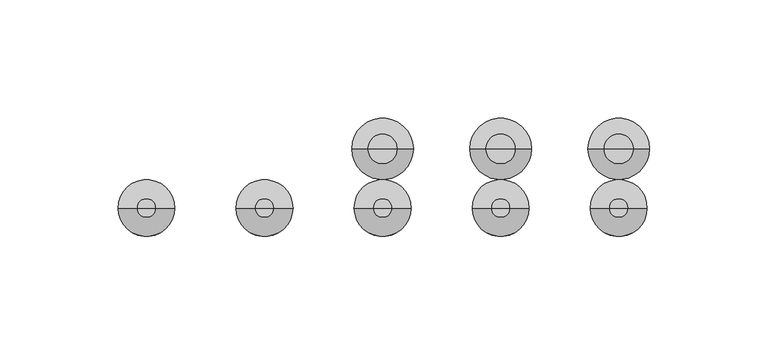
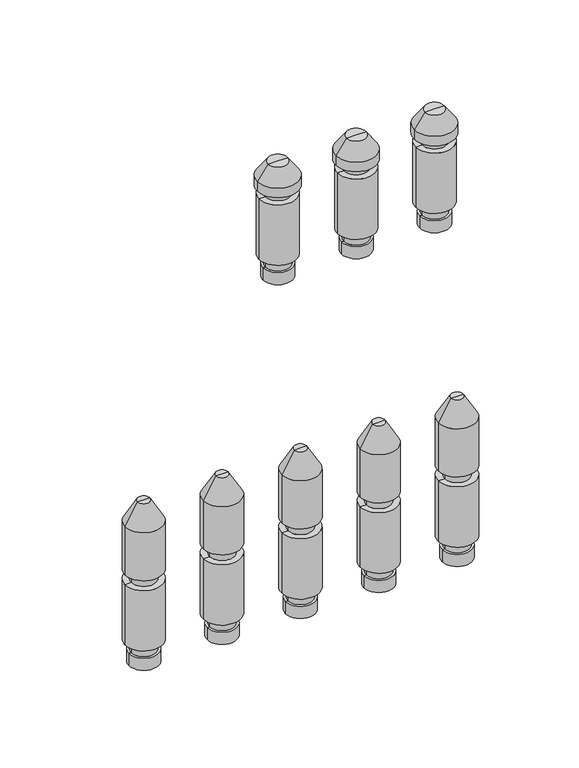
"""IFC4 building model written with IfcOpenShell, lengths in millimetres: valve geometry, PL CZ_Manifold_FT-VA : 15 circuits."""

from ifc_helpers import new_model, si_unit, frame, origin, place, context, project, spatial, polyline, circle_curve, source, transform, mapped, element, save
from ifc_brep_helpers import plane_surface, cylinder_surface, revolved_surface, advanced_brep


def valve_b42ebe50(model_context):
    return source(origin(), model_context, "Body", "AdvancedBrep", [
        advanced_brep(
        [(678.5, 0.0, -35.11267), (697.5, 0.0, -35.11267), (688.0, 0.0, -35.11267), (678.5, 0.0, -27.0369646), (697.5, 0.0, -27.0369646), (680.0, 0.0, -27.0369646), (696.0, 0.0, -27.0369646), (680.0, 0.0, -20.330253), (696.0, 0.0, -20.330253), (676.0, 0.0, -20.330253), (700.0, 0.0, -20.330253), (676.0, 0.0, 20.330253), (700.0, 0.0, 20.330253), (680.0, 0.0, 20.330253), (696.0, 0.0, 20.330253), (680.0, 0.0, 27.0474786), (696.0, 0.0, 27.0474786), (676.0, 0.0, 27.0474786), (700.0, 0.0, 27.0474786), (676.0, 0.0, 59.4084325), (700.0, 0.0, 59.4084325), (684.0, 0.0, 73.264839), (692.0, 0.0, 73.264839), (688.0, 0.0, 73.264839)],
        [
            (0, 1, circle_curve(frame((688.0, 0.0, -35.11267), z_axis=(0.0, 0.0, -1.0), x_axis=(1.0, 0.0, 0.0)), 9.5)),
            (1, 2),
            (2, 0),
            (1, 0, circle_curve(frame((688.0, 0.0, -35.11267), z_axis=(0.0, 0.0, -1.0), x_axis=(1.0, 0.0, 0.0)), 9.5)),
            (3, 4, circle_curve(frame((688.0, 0.0, -27.0369646), z_axis=(0.0, 0.0, -1.0), x_axis=(1.0, 0.0, 0.0)), 9.5)),
            (4, 1),
            (0, 3),
            (4, 3, circle_curve(frame((688.0, 0.0, -27.0369646), z_axis=(0.0, 0.0, -1.0), x_axis=(1.0, 0.0, 0.0)), 9.5)),
            (5, 6, circle_curve(frame((688.0, 0.0, -27.0369646), z_axis=(0.0, 0.0, -1.0), x_axis=(1.0, 0.0, 0.0)), 8.0)),
            (6, 4),
            (3, 5),
            (6, 5, circle_curve(frame((688.0, 0.0, -27.0369646), z_axis=(0.0, 0.0, -1.0), x_axis=(1.0, 0.0, 0.0)), 8.0)),
            (7, 8, circle_curve(frame((688.0, 0.0, -20.330253), z_axis=(0.0, 0.0, -1.0), x_axis=(1.0, 0.0, 0.0)), 8.0)),
            (8, 6),
            (5, 7),
            (8, 7, circle_curve(frame((688.0, 0.0, -20.330253), z_axis=(0.0, 0.0, -1.0), x_axis=(1.0, 0.0, 0.0)), 8.0)),
            (9, 10, circle_curve(frame((688.0, 0.0, -20.330253), z_axis=(0.0, 0.0, -1.0), x_axis=(1.0, 0.0, 0.0)), 12.0)),
            (10, 8),
            (7, 9),
            (10, 9, circle_curve(frame((688.0, 0.0, -20.330253), z_axis=(0.0, 0.0, -1.0), x_axis=(1.0, 0.0, 0.0)), 12.0)),
            (11, 12, circle_curve(frame((688.0, 0.0, 20.330253), z_axis=(0.0, 0.0, -1.0), x_axis=(1.0, 0.0, 0.0)), 12.0)),
            (12, 10),
            (9, 11),
            (12, 11, circle_curve(frame((688.0, 0.0, 20.330253), z_axis=(0.0, 0.0, -1.0), x_axis=(1.0, 0.0, 0.0)), 12.0)),
            (13, 14, circle_curve(frame((688.0, 0.0, 20.330253), z_axis=(0.0, 0.0, -1.0), x_axis=(1.0, 0.0, 0.0)), 8.0)),
            (14, 12),
            (11, 13),
            (14, 13, circle_curve(frame((688.0, 0.0, 20.330253), z_axis=(0.0, 0.0, -1.0), x_axis=(1.0, 0.0, 0.0)), 8.0)),
            (15, 16, circle_curve(frame((688.0, 0.0, 27.0474786), z_axis=(0.0, 0.0, -1.0), x_axis=(1.0, 0.0, 0.0)), 8.0)),
            (16, 14),
            (13, 15),
            (16, 15, circle_curve(frame((688.0, 0.0, 27.0474786), z_axis=(0.0, 0.0, -1.0), x_axis=(1.0, 0.0, 0.0)), 8.0)),
            (17, 18, circle_curve(frame((688.0, 0.0, 27.0474786), z_axis=(0.0, 0.0, -1.0), x_axis=(1.0, 0.0, 0.0)), 12.0)),
            (18, 16),
            (15, 17),
            (18, 17, circle_curve(frame((688.0, 0.0, 27.0474786), z_axis=(0.0, 0.0, -1.0), x_axis=(1.0, 0.0, 0.0)), 12.0)),
            (19, 20, circle_curve(frame((688.0, 0.0, 59.4084325), z_axis=(0.0, 0.0, -1.0), x_axis=(1.0, 0.0, 0.0)), 12.0)),
            (20, 18),
            (17, 19),
            (20, 19, circle_curve(frame((688.0, 0.0, 59.4084325), z_axis=(0.0, 0.0, -1.0), x_axis=(1.0, 0.0, 0.0)), 12.0)),
            (21, 22, circle_curve(frame((688.0, 0.0, 73.264839), z_axis=(0.0, 0.0, -1.0), x_axis=(1.0, 0.0, 0.0)), 4.0)),
            (22, 20),
            (19, 21),
            (22, 21, circle_curve(frame((688.0, 0.0, 73.264839), z_axis=(0.0, 0.0, -1.0), x_axis=(1.0, 0.0, 0.0)), 4.0)),
            (23, 22),
            (21, 23),
        ],
        [
            plane_surface(frame((688.0, 0.0, -35.11267), z_axis=(0.0, 0.0, -1.0), x_axis=(1.0, 0.0, 0.0))),
            cylinder_surface(frame((688.0, 0.0, 58.264839), z_axis=(0.0, 0.0, 1.0), x_axis=(1.0, 0.0, 0.0)), 9.5),
            plane_surface(frame((688.0, 0.0, -27.0369646), z_axis=(0.0, 0.0, 1.0), x_axis=(1.0, 0.0, 0.0))),
            cylinder_surface(frame((688.0, 0.0, 58.264839), z_axis=(0.0, 0.0, 1.0), x_axis=(1.0, 0.0, 0.0)), 8.0),
            plane_surface(frame((688.0, 0.0, -20.330253), z_axis=(0.0, 0.0, -1.0), x_axis=(1.0, 0.0, 0.0))),
            cylinder_surface(frame((688.0, 0.0, 58.264839), z_axis=(0.0, 0.0, 1.0), x_axis=(1.0, 0.0, 0.0)), 12.0),
            plane_surface(frame((688.0, 0.0, 20.330253), z_axis=(0.0, 0.0, 1.0), x_axis=(1.0, 0.0, 0.0))),
            plane_surface(frame((688.0, 0.0, 27.0474786), z_axis=(0.0, 0.0, -1.0), x_axis=(1.0, 0.0, 0.0))),
            revolved_surface(polyline([(700.0, 0.0, 59.4084325), (692.0, 0.0, 73.264839)]), (688.0, 0.0, 58.264839), (0.0, 0.0, 1.0)),
            plane_surface(frame((688.0, 0.0, 73.264839), z_axis=(0.0, 0.0, 1.0), x_axis=(1.0, 0.0, 0.0))),
        ],
        [
            (0, [[1, 2, 3]]),
            (0, [[4, -3, -2]]),
            (1, [[5, 6, -1, 7]]),
            (1, [[8, -7, -4, -6]]),
            (2, [[9, 10, -5, 11]]),
            (2, [[12, -11, -8, -10]]),
            (3, [[13, 14, -9, 15]]),
            (3, [[16, -15, -12, -14]]),
            (4, [[17, 18, -13, 19]]),
            (4, [[20, -19, -16, -18]]),
            (5, [[21, 22, -17, 23]]),
            (5, [[24, -23, -20, -22]]),
            (6, [[25, 26, -21, 27]]),
            (6, [[28, -27, -24, -26]]),
            (3, [[29, 30, -25, 31]]),
            (3, [[32, -31, -28, -30]]),
            (7, [[33, 34, -29, 35]]),
            (7, [[36, -35, -32, -34]]),
            (5, [[37, 38, -33, 39]]),
            (5, [[40, -39, -36, -38]]),
            (8, [[41, 42, -37, 43]]),
            (8, [[44, -43, -40, -42]]),
            (9, [[45, -41, 46]]),
            (9, [[-46, -44, -45]]),
        ],
    ),
        advanced_brep(
        [(628.5, 0.0, -35.11267), (647.5, 0.0, -35.11267), (638.0, 0.0, -35.11267), (628.5, 0.0, -27.0369646), (647.5, 0.0, -27.0369646), (630.0, 0.0, -27.0369646), (646.0, 0.0, -27.0369646), (630.0, 0.0, -20.330253), (646.0, 0.0, -20.330253), (626.0, 0.0, -20.330253), (650.0, 0.0, -20.330253), (626.0, 0.0, 20.330253), (650.0, 0.0, 20.330253), (630.0, 0.0, 20.330253), (646.0, 0.0, 20.330253), (630.0, 0.0, 27.0474786), (646.0, 0.0, 27.0474786), (626.0, 0.0, 27.0474786), (650.0, 0.0, 27.0474786), (626.0, 0.0, 59.4084325), (650.0, 0.0, 59.4084325), (634.0, 0.0, 73.264839), (642.0, 0.0, 73.264839), (638.0, 0.0, 73.264839)],
        [
            (0, 1, circle_curve(frame((638.0, 0.0, -35.11267), z_axis=(0.0, 0.0, -1.0), x_axis=(1.0, 0.0, 0.0)), 9.5)),
            (1, 2),
            (2, 0),
            (1, 0, circle_curve(frame((638.0, 0.0, -35.11267), z_axis=(0.0, 0.0, -1.0), x_axis=(1.0, 0.0, 0.0)), 9.5)),
            (3, 4, circle_curve(frame((638.0, 0.0, -27.0369646), z_axis=(0.0, 0.0, -1.0), x_axis=(1.0, 0.0, 0.0)), 9.5)),
            (4, 1),
            (0, 3),
            (4, 3, circle_curve(frame((638.0, 0.0, -27.0369646), z_axis=(0.0, 0.0, -1.0), x_axis=(1.0, 0.0, 0.0)), 9.5)),
            (5, 6, circle_curve(frame((638.0, 0.0, -27.0369646), z_axis=(0.0, 0.0, -1.0), x_axis=(1.0, 0.0, 0.0)), 8.0)),
            (6, 4),
            (3, 5),
            (6, 5, circle_curve(frame((638.0, 0.0, -27.0369646), z_axis=(0.0, 0.0, -1.0), x_axis=(1.0, 0.0, 0.0)), 8.0)),
            (7, 8, circle_curve(frame((638.0, 0.0, -20.330253), z_axis=(0.0, 0.0, -1.0), x_axis=(1.0, 0.0, 0.0)), 8.0)),
            (8, 6),
            (5, 7),
            (8, 7, circle_curve(frame((638.0, 0.0, -20.330253), z_axis=(0.0, 0.0, -1.0), x_axis=(1.0, 0.0, 0.0)), 8.0)),
            (9, 10, circle_curve(frame((638.0, 0.0, -20.330253), z_axis=(0.0, 0.0, -1.0), x_axis=(1.0, 0.0, 0.0)), 12.0)),
            (10, 8),
            (7, 9),
            (10, 9, circle_curve(frame((638.0, 0.0, -20.330253), z_axis=(0.0, 0.0, -1.0), x_axis=(1.0, 0.0, 0.0)), 12.0)),
            (11, 12, circle_curve(frame((638.0, 0.0, 20.330253), z_axis=(0.0, 0.0, -1.0), x_axis=(1.0, 0.0, 0.0)), 12.0)),
            (12, 10),
            (9, 11),
            (12, 11, circle_curve(frame((638.0, 0.0, 20.330253), z_axis=(0.0, 0.0, -1.0), x_axis=(1.0, 0.0, 0.0)), 12.0)),
            (13, 14, circle_curve(frame((638.0, 0.0, 20.330253), z_axis=(0.0, 0.0, -1.0), x_axis=(1.0, 0.0, 0.0)), 8.0)),
            (14, 12),
            (11, 13),
            (14, 13, circle_curve(frame((638.0, 0.0, 20.330253), z_axis=(0.0, 0.0, -1.0), x_axis=(1.0, 0.0, 0.0)), 8.0)),
            (15, 16, circle_curve(frame((638.0, 0.0, 27.0474786), z_axis=(0.0, 0.0, -1.0), x_axis=(1.0, 0.0, 0.0)), 8.0)),
            (16, 14),
            (13, 15),
            (16, 15, circle_curve(frame((638.0, 0.0, 27.0474786), z_axis=(0.0, 0.0, -1.0), x_axis=(1.0, 0.0, 0.0)), 8.0)),
            (17, 18, circle_curve(frame((638.0, 0.0, 27.0474786), z_axis=(0.0, 0.0, -1.0), x_axis=(1.0, 0.0, 0.0)), 12.0)),
            (18, 16),
            (15, 17),
            (18, 17, circle_curve(frame((638.0, 0.0, 27.0474786), z_axis=(0.0, 0.0, -1.0), x_axis=(1.0, 0.0, 0.0)), 12.0)),
            (19, 20, circle_curve(frame((638.0, 0.0, 59.4084325), z_axis=(0.0, 0.0, -1.0), x_axis=(1.0, 0.0, 0.0)), 12.0)),
            (20, 18),
            (17, 19),
            (20, 19, circle_curve(frame((638.0, 0.0, 59.4084325), z_axis=(0.0, 0.0, -1.0), x_axis=(1.0, 0.0, 0.0)), 12.0)),
            (21, 22, circle_curve(frame((638.0, 0.0, 73.264839), z_axis=(0.0, 0.0, -1.0), x_axis=(1.0, 0.0, 0.0)), 4.0)),
            (22, 20),
            (19, 21),
            (22, 21, circle_curve(frame((638.0, 0.0, 73.264839), z_axis=(0.0, 0.0, -1.0), x_axis=(1.0, 0.0, 0.0)), 4.0)),
            (23, 22),
            (21, 23),
        ],
        [
            plane_surface(frame((638.0, 0.0, -35.11267), z_axis=(0.0, 0.0, -1.0), x_axis=(1.0, 0.0, 0.0))),
            cylinder_surface(frame((638.0, 0.0, 58.264839), z_axis=(0.0, 0.0, 1.0), x_axis=(1.0, 0.0, 0.0)), 9.5),
            plane_surface(frame((638.0, 0.0, -27.0369646), z_axis=(0.0, 0.0, 1.0), x_axis=(1.0, 0.0, 0.0))),
            cylinder_surface(frame((638.0, 0.0, 58.264839), z_axis=(0.0, 0.0, 1.0), x_axis=(1.0, 0.0, 0.0)), 8.0),
            plane_surface(frame((638.0, 0.0, -20.330253), z_axis=(0.0, 0.0, -1.0), x_axis=(1.0, 0.0, 0.0))),
            cylinder_surface(frame((638.0, 0.0, 58.264839), z_axis=(0.0, 0.0, 1.0), x_axis=(1.0, 0.0, 0.0)), 12.0),
            plane_surface(frame((638.0, 0.0, 20.330253), z_axis=(0.0, 0.0, 1.0), x_axis=(1.0, 0.0, 0.0))),
            plane_surface(frame((638.0, 0.0, 27.0474786), z_axis=(0.0, 0.0, -1.0), x_axis=(1.0, 0.0, 0.0))),
            revolved_surface(polyline([(650.0, 0.0, 59.4084325), (642.0, 0.0, 73.264839)]), (638.0, 0.0, 58.264839), (0.0, 0.0, 1.0)),
            plane_surface(frame((638.0, 0.0, 73.264839), z_axis=(0.0, 0.0, 1.0), x_axis=(1.0, 0.0, 0.0))),
        ],
        [
            (0, [[1, 2, 3]]),
            (0, [[4, -3, -2]]),
            (1, [[5, 6, -1, 7]]),
            (1, [[8, -7, -4, -6]]),
            (2, [[9, 10, -5, 11]]),
            (2, [[12, -11, -8, -10]]),
            (3, [[13, 14, -9, 15]]),
            (3, [[16, -15, -12, -14]]),
            (4, [[17, 18, -13, 19]]),
            (4, [[20, -19, -16, -18]]),
            (5, [[21, 22, -17, 23]]),
            (5, [[24, -23, -20, -22]]),
            (6, [[25, 26, -21, 27]]),
            (6, [[28, -27, -24, -26]]),
            (3, [[29, 30, -25, 31]]),
            (3, [[32, -31, -28, -30]]),
            (7, [[33, 34, -29, 35]]),
            (7, [[36, -35, -32, -34]]),
            (5, [[37, 38, -33, 39]]),
            (5, [[40, -39, -36, -38]]),
            (8, [[41, 42, -37, 43]]),
            (8, [[44, -43, -40, -42]]),
            (9, [[45, -41, 46]]),
            (9, [[-46, -44, -45]]),
        ],
    ),
        advanced_brep(
        [(578.5, 0.0, -35.11267), (597.5, 0.0, -35.11267), (588.0, 0.0, -35.11267), (578.5, 0.0, -27.0369646), (597.5, 0.0, -27.0369646), (580.0, 0.0, -27.0369646), (596.0, 0.0, -27.0369646), (580.0, 0.0, -20.330253), (596.0, 0.0, -20.330253), (576.0, 0.0, -20.330253), (600.0, 0.0, -20.330253), (576.0, 0.0, 20.330253), (600.0, 0.0, 20.330253), (580.0, 0.0, 20.330253), (596.0, 0.0, 20.330253), (580.0, 0.0, 27.0474786), (596.0, 0.0, 27.0474786), (576.0, 0.0, 27.0474786), (600.0, 0.0, 27.0474786), (576.0, 0.0, 59.4084325), (600.0, 0.0, 59.4084325), (584.0, 0.0, 73.264839), (592.0, 0.0, 73.264839), (588.0, 0.0, 73.264839)],
        [
            (0, 1, circle_curve(frame((588.0, 0.0, -35.11267), z_axis=(0.0, 0.0, -1.0), x_axis=(1.0, 0.0, 0.0)), 9.5)),
            (1, 2),
            (2, 0),
            (1, 0, circle_curve(frame((588.0, 0.0, -35.11267), z_axis=(0.0, 0.0, -1.0), x_axis=(1.0, 0.0, 0.0)), 9.5)),
            (3, 4, circle_curve(frame((588.0, 0.0, -27.0369646), z_axis=(0.0, 0.0, -1.0), x_axis=(1.0, 0.0, 0.0)), 9.5)),
            (4, 1),
            (0, 3),
            (4, 3, circle_curve(frame((588.0, 0.0, -27.0369646), z_axis=(0.0, 0.0, -1.0), x_axis=(1.0, 0.0, 0.0)), 9.5)),
            (5, 6, circle_curve(frame((588.0, 0.0, -27.0369646), z_axis=(0.0, 0.0, -1.0), x_axis=(1.0, 0.0, 0.0)), 8.0)),
            (6, 4),
            (3, 5),
            (6, 5, circle_curve(frame((588.0, 0.0, -27.0369646), z_axis=(0.0, 0.0, -1.0), x_axis=(1.0, 0.0, 0.0)), 8.0)),
            (7, 8, circle_curve(frame((588.0, 0.0, -20.330253), z_axis=(0.0, 0.0, -1.0), x_axis=(1.0, 0.0, 0.0)), 8.0)),
            (8, 6),
            (5, 7),
            (8, 7, circle_curve(frame((588.0, 0.0, -20.330253), z_axis=(0.0, 0.0, -1.0), x_axis=(1.0, 0.0, 0.0)), 8.0)),
            (9, 10, circle_curve(frame((588.0, 0.0, -20.330253), z_axis=(0.0, 0.0, -1.0), x_axis=(1.0, 0.0, 0.0)), 12.0)),
            (10, 8),
            (7, 9),
            (10, 9, circle_curve(frame((588.0, 0.0, -20.330253), z_axis=(0.0, 0.0, -1.0), x_axis=(1.0, 0.0, 0.0)), 12.0)),
            (11, 12, circle_curve(frame((588.0, 0.0, 20.330253), z_axis=(0.0, 0.0, -1.0), x_axis=(1.0, 0.0, 0.0)), 12.0)),
            (12, 10),
            (9, 11),
            (12, 11, circle_curve(frame((588.0, 0.0, 20.330253), z_axis=(0.0, 0.0, -1.0), x_axis=(1.0, 0.0, 0.0)), 12.0)),
            (13, 14, circle_curve(frame((588.0, 0.0, 20.330253), z_axis=(0.0, 0.0, -1.0), x_axis=(1.0, 0.0, 0.0)), 8.0)),
            (14, 12),
            (11, 13),
            (14, 13, circle_curve(frame((588.0, 0.0, 20.330253), z_axis=(0.0, 0.0, -1.0), x_axis=(1.0, 0.0, 0.0)), 8.0)),
            (15, 16, circle_curve(frame((588.0, 0.0, 27.0474786), z_axis=(0.0, 0.0, -1.0), x_axis=(1.0, 0.0, 0.0)), 8.0)),
            (16, 14),
            (13, 15),
            (16, 15, circle_curve(frame((588.0, 0.0, 27.0474786), z_axis=(0.0, 0.0, -1.0), x_axis=(1.0, 0.0, 0.0)), 8.0)),
            (17, 18, circle_curve(frame((588.0, 0.0, 27.0474786), z_axis=(0.0, 0.0, -1.0), x_axis=(1.0, 0.0, 0.0)), 12.0)),
            (18, 16),
            (15, 17),
            (18, 17, circle_curve(frame((588.0, 0.0, 27.0474786), z_axis=(0.0, 0.0, -1.0), x_axis=(1.0, 0.0, 0.0)), 12.0)),
            (19, 20, circle_curve(frame((588.0, 0.0, 59.4084325), z_axis=(0.0, 0.0, -1.0), x_axis=(1.0, 0.0, 0.0)), 12.0)),
            (20, 18),
            (17, 19),
            (20, 19, circle_curve(frame((588.0, 0.0, 59.4084325), z_axis=(0.0, 0.0, -1.0), x_axis=(1.0, 0.0, 0.0)), 12.0)),
            (21, 22, circle_curve(frame((588.0, 0.0, 73.264839), z_axis=(0.0, 0.0, -1.0), x_axis=(1.0, 0.0, 0.0)), 4.0)),
            (22, 20),
            (19, 21),
            (22, 21, circle_curve(frame((588.0, 0.0, 73.264839), z_axis=(0.0, 0.0, -1.0), x_axis=(1.0, 0.0, 0.0)), 4.0)),
            (23, 22),
            (21, 23),
        ],
        [
            plane_surface(frame((588.0, 0.0, -35.11267), z_axis=(0.0, 0.0, -1.0), x_axis=(1.0, 0.0, 0.0))),
            cylinder_surface(frame((588.0, 0.0, 58.264839), z_axis=(0.0, 0.0, 1.0), x_axis=(1.0, 0.0, 0.0)), 9.5),
            plane_surface(frame((588.0, 0.0, -27.0369646), z_axis=(0.0, 0.0, 1.0), x_axis=(1.0, 0.0, 0.0))),
            cylinder_surface(frame((588.0, 0.0, 58.264839), z_axis=(0.0, 0.0, 1.0), x_axis=(1.0, 0.0, 0.0)), 8.0),
            plane_surface(frame((588.0, 0.0, -20.330253), z_axis=(0.0, 0.0, -1.0), x_axis=(1.0, 0.0, 0.0))),
            cylinder_surface(frame((588.0, 0.0, 58.264839), z_axis=(0.0, 0.0, 1.0), x_axis=(1.0, 0.0, 0.0)), 12.0),
            plane_surface(frame((588.0, 0.0, 20.330253), z_axis=(0.0, 0.0, 1.0), x_axis=(1.0, 0.0, 0.0))),
            plane_surface(frame((588.0, 0.0, 27.0474786), z_axis=(0.0, 0.0, -1.0), x_axis=(1.0, 0.0, 0.0))),
            revolved_surface(polyline([(600.0, 0.0, 59.4084325), (592.0, 0.0, 73.264839)]), (588.0, 0.0, 58.264839), (0.0, 0.0, 1.0)),
            plane_surface(frame((588.0, 0.0, 73.264839), z_axis=(0.0, 0.0, 1.0), x_axis=(1.0, 0.0, 0.0))),
        ],
        [
            (0, [[1, 2, 3]]),
            (0, [[4, -3, -2]]),
            (1, [[5, 6, -1, 7]]),
            (1, [[8, -7, -4, -6]]),
            (2, [[9, 10, -5, 11]]),
            (2, [[12, -11, -8, -10]]),
            (3, [[13, 14, -9, 15]]),
            (3, [[16, -15, -12, -14]]),
            (4, [[17, 18, -13, 19]]),
            (4, [[20, -19, -16, -18]]),
            (5, [[21, 22, -17, 23]]),
            (5, [[24, -23, -20, -22]]),
            (6, [[25, 26, -21, 27]]),
            (6, [[28, -27, -24, -26]]),
            (3, [[29, 30, -25, 31]]),
            (3, [[32, -31, -28, -30]]),
            (7, [[33, 34, -29, 35]]),
            (7, [[36, -35, -32, -34]]),
            (5, [[37, 38, -33, 39]]),
            (5, [[40, -39, -36, -38]]),
            (8, [[41, 42, -37, 43]]),
            (8, [[44, -43, -40, -42]]),
            (9, [[45, -41, 46]]),
            (9, [[-46, -44, -45]]),
        ],
    ),
        advanced_brep(
        [(528.5, 0.0, -35.11267), (547.5, 0.0, -35.11267), (538.0, 0.0, -35.11267), (528.5, 0.0, -27.0369646), (547.5, 0.0, -27.0369646), (530.0, 0.0, -27.0369646), (546.0, 0.0, -27.0369646), (530.0, 0.0, -20.330253), (546.0, 0.0, -20.330253), (526.0, 0.0, -20.330253), (550.0, 0.0, -20.330253), (526.0, 0.0, 20.330253), (550.0, 0.0, 20.330253), (530.0, 0.0, 20.330253), (546.0, 0.0, 20.330253), (530.0, 0.0, 27.0474786), (546.0, 0.0, 27.0474786), (526.0, 0.0, 27.0474786), (550.0, 0.0, 27.0474786), (526.0, 0.0, 59.4084325), (550.0, 0.0, 59.4084325), (534.0, 0.0, 73.264839), (542.0, 0.0, 73.264839), (538.0, 0.0, 73.264839)],
        [
            (0, 1, circle_curve(frame((538.0, 0.0, -35.11267), z_axis=(0.0, 0.0, -1.0), x_axis=(1.0, 0.0, 0.0)), 9.5)),
            (1, 2),
            (2, 0),
            (1, 0, circle_curve(frame((538.0, 0.0, -35.11267), z_axis=(0.0, 0.0, -1.0), x_axis=(1.0, 0.0, 0.0)), 9.5)),
            (3, 4, circle_curve(frame((538.0, 0.0, -27.0369646), z_axis=(0.0, 0.0, -1.0), x_axis=(1.0, 0.0, 0.0)), 9.5)),
            (4, 1),
            (0, 3),
            (4, 3, circle_curve(frame((538.0, 0.0, -27.0369646), z_axis=(0.0, 0.0, -1.0), x_axis=(1.0, 0.0, 0.0)), 9.5)),
            (5, 6, circle_curve(frame((538.0, 0.0, -27.0369646), z_axis=(0.0, 0.0, -1.0), x_axis=(1.0, 0.0, 0.0)), 8.0)),
            (6, 4),
            (3, 5),
            (6, 5, circle_curve(frame((538.0, 0.0, -27.0369646), z_axis=(0.0, 0.0, -1.0), x_axis=(1.0, 0.0, 0.0)), 8.0)),
            (7, 8, circle_curve(frame((538.0, 0.0, -20.330253), z_axis=(0.0, 0.0, -1.0), x_axis=(1.0, 0.0, 0.0)), 8.0)),
            (8, 6),
            (5, 7),
            (8, 7, circle_curve(frame((538.0, 0.0, -20.330253), z_axis=(0.0, 0.0, -1.0), x_axis=(1.0, 0.0, 0.0)), 8.0)),
            (9, 10, circle_curve(frame((538.0, 0.0, -20.330253), z_axis=(0.0, 0.0, -1.0), x_axis=(1.0, 0.0, 0.0)), 12.0)),
            (10, 8),
            (7, 9),
            (10, 9, circle_curve(frame((538.0, 0.0, -20.330253), z_axis=(0.0, 0.0, -1.0), x_axis=(1.0, 0.0, 0.0)), 12.0)),
            (11, 12, circle_curve(frame((538.0, 0.0, 20.330253), z_axis=(0.0, 0.0, -1.0), x_axis=(1.0, 0.0, 0.0)), 12.0)),
            (12, 10),
            (9, 11),
            (12, 11, circle_curve(frame((538.0, 0.0, 20.330253), z_axis=(0.0, 0.0, -1.0), x_axis=(1.0, 0.0, 0.0)), 12.0)),
            (13, 14, circle_curve(frame((538.0, 0.0, 20.330253), z_axis=(0.0, 0.0, -1.0), x_axis=(1.0, 0.0, 0.0)), 8.0)),
            (14, 12),
            (11, 13),
            (14, 13, circle_curve(frame((538.0, 0.0, 20.330253), z_axis=(0.0, 0.0, -1.0), x_axis=(1.0, 0.0, 0.0)), 8.0)),
            (15, 16, circle_curve(frame((538.0, 0.0, 27.0474786), z_axis=(0.0, 0.0, -1.0), x_axis=(1.0, 0.0, 0.0)), 8.0)),
            (16, 14),
            (13, 15),
            (16, 15, circle_curve(frame((538.0, 0.0, 27.0474786), z_axis=(0.0, 0.0, -1.0), x_axis=(1.0, 0.0, 0.0)), 8.0)),
            (17, 18, circle_curve(frame((538.0, 0.0, 27.0474786), z_axis=(0.0, 0.0, -1.0), x_axis=(1.0, 0.0, 0.0)), 12.0)),
            (18, 16),
            (15, 17),
            (18, 17, circle_curve(frame((538.0, 0.0, 27.0474786), z_axis=(0.0, 0.0, -1.0), x_axis=(1.0, 0.0, 0.0)), 12.0)),
            (19, 20, circle_curve(frame((538.0, 0.0, 59.4084325), z_axis=(0.0, 0.0, -1.0), x_axis=(1.0, 0.0, 0.0)), 12.0)),
            (20, 18),
            (17, 19),
            (20, 19, circle_curve(frame((538.0, 0.0, 59.4084325), z_axis=(0.0, 0.0, -1.0), x_axis=(1.0, 0.0, 0.0)), 12.0)),
            (21, 22, circle_curve(frame((538.0, 0.0, 73.264839), z_axis=(0.0, 0.0, -1.0), x_axis=(1.0, 0.0, 0.0)), 4.0)),
            (22, 20),
            (19, 21),
            (22, 21, circle_curve(frame((538.0, 0.0, 73.264839), z_axis=(0.0, 0.0, -1.0), x_axis=(1.0, 0.0, 0.0)), 4.0)),
            (23, 22),
            (21, 23),
        ],
        [
            plane_surface(frame((538.0, 0.0, -35.11267), z_axis=(0.0, 0.0, -1.0), x_axis=(1.0, 0.0, 0.0))),
            cylinder_surface(frame((538.0, 0.0, 58.264839), z_axis=(0.0, 0.0, 1.0), x_axis=(1.0, 0.0, 0.0)), 9.5),
            plane_surface(frame((538.0, 0.0, -27.0369646), z_axis=(0.0, 0.0, 1.0), x_axis=(1.0, 0.0, 0.0))),
            cylinder_surface(frame((538.0, 0.0, 58.264839), z_axis=(0.0, 0.0, 1.0), x_axis=(1.0, 0.0, 0.0)), 8.0),
            plane_surface(frame((538.0, 0.0, -20.330253), z_axis=(0.0, 0.0, -1.0), x_axis=(1.0, 0.0, 0.0))),
            cylinder_surface(frame((538.0, 0.0, 58.264839), z_axis=(0.0, 0.0, 1.0), x_axis=(1.0, 0.0, 0.0)), 12.0),
            plane_surface(frame((538.0, 0.0, 20.330253), z_axis=(0.0, 0.0, 1.0), x_axis=(1.0, 0.0, 0.0))),
            plane_surface(frame((538.0, 0.0, 27.0474786), z_axis=(0.0, 0.0, -1.0), x_axis=(1.0, 0.0, 0.0))),
            revolved_surface(polyline([(550.0, 0.0, 59.4084325), (542.0, 0.0, 73.264839)]), (538.0, 0.0, 58.264839), (0.0, 0.0, 1.0)),
            plane_surface(frame((538.0, 0.0, 73.264839), z_axis=(0.0, 0.0, 1.0), x_axis=(1.0, 0.0, 0.0))),
        ],
        [
            (0, [[1, 2, 3]]),
            (0, [[4, -3, -2]]),
            (1, [[5, 6, -1, 7]]),
            (1, [[8, -7, -4, -6]]),
            (2, [[9, 10, -5, 11]]),
            (2, [[12, -11, -8, -10]]),
            (3, [[13, 14, -9, 15]]),
            (3, [[16, -15, -12, -14]]),
            (4, [[17, 18, -13, 19]]),
            (4, [[20, -19, -16, -18]]),
            (5, [[21, 22, -17, 23]]),
            (5, [[24, -23, -20, -22]]),
            (6, [[25, 26, -21, 27]]),
            (6, [[28, -27, -24, -26]]),
            (3, [[29, 30, -25, 31]]),
            (3, [[32, -31, -28, -30]]),
            (7, [[33, 34, -29, 35]]),
            (7, [[36, -35, -32, -34]]),
            (5, [[37, 38, -33, 39]]),
            (5, [[40, -39, -36, -38]]),
            (8, [[41, 42, -37, 43]]),
            (8, [[44, -43, -40, -42]]),
            (9, [[45, -41, 46]]),
            (9, [[-46, -44, -45]]),
        ],
    ),
        advanced_brep(
        [(478.5, 0.0, -35.11267), (497.5, 0.0, -35.11267), (488.0, 0.0, -35.11267), (478.5, 0.0, -27.0369646), (497.5, 0.0, -27.0369646), (480.0, 0.0, -27.0369646), (496.0, 0.0, -27.0369646), (480.0, 0.0, -20.330253), (496.0, 0.0, -20.330253), (476.0, 0.0, -20.330253), (500.0, 0.0, -20.330253), (476.0, 0.0, 20.330253), (500.0, 0.0, 20.330253), (480.0, 0.0, 20.330253), (496.0, 0.0, 20.330253), (480.0, 0.0, 27.0474786), (496.0, 0.0, 27.0474786), (476.0, 0.0, 27.0474786), (500.0, 0.0, 27.0474786), (476.0, 0.0, 59.4084325), (500.0, 0.0, 59.4084325), (484.0, 0.0, 73.264839), (492.0, 0.0, 73.264839), (488.0, 0.0, 73.264839)],
        [
            (0, 1, circle_curve(frame((488.0, 0.0, -35.11267), z_axis=(0.0, 0.0, -1.0), x_axis=(1.0, 0.0, 0.0)), 9.5)),
            (1, 2),
            (2, 0),
            (1, 0, circle_curve(frame((488.0, 0.0, -35.11267), z_axis=(0.0, 0.0, -1.0), x_axis=(1.0, 0.0, 0.0)), 9.5)),
            (3, 4, circle_curve(frame((488.0, 0.0, -27.0369646), z_axis=(0.0, 0.0, -1.0), x_axis=(1.0, 0.0, 0.0)), 9.5)),
            (4, 1),
            (0, 3),
            (4, 3, circle_curve(frame((488.0, 0.0, -27.0369646), z_axis=(0.0, 0.0, -1.0), x_axis=(1.0, 0.0, 0.0)), 9.5)),
            (5, 6, circle_curve(frame((488.0, 0.0, -27.0369646), z_axis=(0.0, 0.0, -1.0), x_axis=(1.0, 0.0, 0.0)), 8.0)),
            (6, 4),
            (3, 5),
            (6, 5, circle_curve(frame((488.0, 0.0, -27.0369646), z_axis=(0.0, 0.0, -1.0), x_axis=(1.0, 0.0, 0.0)), 8.0)),
            (7, 8, circle_curve(frame((488.0, 0.0, -20.330253), z_axis=(0.0, 0.0, -1.0), x_axis=(1.0, 0.0, 0.0)), 8.0)),
            (8, 6),
            (5, 7),
            (8, 7, circle_curve(frame((488.0, 0.0, -20.330253), z_axis=(0.0, 0.0, -1.0), x_axis=(1.0, 0.0, 0.0)), 8.0)),
            (9, 10, circle_curve(frame((488.0, 0.0, -20.330253), z_axis=(0.0, 0.0, -1.0), x_axis=(1.0, 0.0, 0.0)), 12.0)),
            (10, 8),
            (7, 9),
            (10, 9, circle_curve(frame((488.0, 0.0, -20.330253), z_axis=(0.0, 0.0, -1.0), x_axis=(1.0, 0.0, 0.0)), 12.0)),
            (11, 12, circle_curve(frame((488.0, 0.0, 20.330253), z_axis=(0.0, 0.0, -1.0), x_axis=(1.0, 0.0, 0.0)), 12.0)),
            (12, 10),
            (9, 11),
            (12, 11, circle_curve(frame((488.0, 0.0, 20.330253), z_axis=(0.0, 0.0, -1.0), x_axis=(1.0, 0.0, 0.0)), 12.0)),
            (13, 14, circle_curve(frame((488.0, 0.0, 20.330253), z_axis=(0.0, 0.0, -1.0), x_axis=(1.0, 0.0, 0.0)), 8.0)),
            (14, 12),
            (11, 13),
            (14, 13, circle_curve(frame((488.0, 0.0, 20.330253), z_axis=(0.0, 0.0, -1.0), x_axis=(1.0, 0.0, 0.0)), 8.0)),
            (15, 16, circle_curve(frame((488.0, 0.0, 27.0474786), z_axis=(0.0, 0.0, -1.0), x_axis=(1.0, 0.0, 0.0)), 8.0)),
            (16, 14),
            (13, 15),
            (16, 15, circle_curve(frame((488.0, 0.0, 27.0474786), z_axis=(0.0, 0.0, -1.0), x_axis=(1.0, 0.0, 0.0)), 8.0)),
            (17, 18, circle_curve(frame((488.0, 0.0, 27.0474786), z_axis=(0.0, 0.0, -1.0), x_axis=(1.0, 0.0, 0.0)), 12.0)),
            (18, 16),
            (15, 17),
            (18, 17, circle_curve(frame((488.0, 0.0, 27.0474786), z_axis=(0.0, 0.0, -1.0), x_axis=(1.0, 0.0, 0.0)), 12.0)),
            (19, 20, circle_curve(frame((488.0, 0.0, 59.4084325), z_axis=(0.0, 0.0, -1.0), x_axis=(1.0, 0.0, 0.0)), 12.0)),
            (20, 18),
            (17, 19),
            (20, 19, circle_curve(frame((488.0, 0.0, 59.4084325), z_axis=(0.0, 0.0, -1.0), x_axis=(1.0, 0.0, 0.0)), 12.0)),
            (21, 22, circle_curve(frame((488.0, 0.0, 73.264839), z_axis=(0.0, 0.0, -1.0), x_axis=(1.0, 0.0, 0.0)), 4.0)),
            (22, 20),
            (19, 21),
            (22, 21, circle_curve(frame((488.0, 0.0, 73.264839), z_axis=(0.0, 0.0, -1.0), x_axis=(1.0, 0.0, 0.0)), 4.0)),
            (23, 22),
            (21, 23),
        ],
        [
            plane_surface(frame((488.0, 0.0, -35.11267), z_axis=(0.0, 0.0, -1.0), x_axis=(1.0, 0.0, 0.0))),
            cylinder_surface(frame((488.0, 0.0, 58.264839), z_axis=(0.0, 0.0, 1.0), x_axis=(1.0, 0.0, 0.0)), 9.5),
            plane_surface(frame((488.0, 0.0, -27.0369646), z_axis=(0.0, 0.0, 1.0), x_axis=(1.0, 0.0, 0.0))),
            cylinder_surface(frame((488.0, 0.0, 58.264839), z_axis=(0.0, 0.0, 1.0), x_axis=(1.0, 0.0, 0.0)), 8.0),
            plane_surface(frame((488.0, 0.0, -20.330253), z_axis=(0.0, 0.0, -1.0), x_axis=(1.0, 0.0, 0.0))),
            cylinder_surface(frame((488.0, 0.0, 58.264839), z_axis=(0.0, 0.0, 1.0), x_axis=(1.0, 0.0, 0.0)), 12.0),
            plane_surface(frame((488.0, 0.0, 20.330253), z_axis=(0.0, 0.0, 1.0), x_axis=(1.0, 0.0, 0.0))),
            plane_surface(frame((488.0, 0.0, 27.0474786), z_axis=(0.0, 0.0, -1.0), x_axis=(1.0, 0.0, 0.0))),
            revolved_surface(polyline([(500.0, 0.0, 59.4084325), (492.0, 0.0, 73.264839)]), (488.0, 0.0, 58.264839), (0.0, 0.0, 1.0)),
            plane_surface(frame((488.0, 0.0, 73.264839), z_axis=(0.0, 0.0, 1.0), x_axis=(1.0, 0.0, 0.0))),
        ],
        [
            (0, [[1, 2, 3]]),
            (0, [[4, -3, -2]]),
            (1, [[5, 6, -1, 7]]),
            (1, [[8, -7, -4, -6]]),
            (2, [[9, 10, -5, 11]]),
            (2, [[12, -11, -8, -10]]),
            (3, [[13, 14, -9, 15]]),
            (3, [[16, -15, -12, -14]]),
            (4, [[17, 18, -13, 19]]),
            (4, [[20, -19, -16, -18]]),
            (5, [[21, 22, -17, 23]]),
            (5, [[24, -23, -20, -22]]),
            (6, [[25, 26, -21, 27]]),
            (6, [[28, -27, -24, -26]]),
            (3, [[29, 30, -25, 31]]),
            (3, [[32, -31, -28, -30]]),
            (7, [[33, 34, -29, 35]]),
            (7, [[36, -35, -32, -34]]),
            (5, [[37, 38, -33, 39]]),
            (5, [[40, -39, -36, -38]]),
            (8, [[41, 42, -37, 43]]),
            (8, [[44, -43, -40, -42]]),
            (9, [[45, -41, 46]]),
            (9, [[-46, -44, -45]]),
        ],
    ),
        advanced_brep(
        [(678.5, 25.0, 174.88733), (697.5, 25.0, 174.88733), (688.0, 25.0, 174.88733), (678.5, 25.0, 182.9630354), (697.5, 25.0, 182.9630354), (680.0, 25.0, 182.9630354), (696.0, 25.0, 182.9630354), (680.0, 25.0, 189.669747), (696.0, 25.0, 189.669747), (676.0, 25.0, 189.669747), (700.0, 25.0, 189.669747), (676.0, 25.0, 230.330253), (700.0, 25.0, 230.330253), (680.0, 25.0, 230.330253), (696.0, 25.0, 230.330253), (680.0, 25.0, 236.0474786), (696.0, 25.0, 236.0474786), (675.0, 25.0, 236.0474786), (701.0, 25.0, 236.0474786), (675.0, 25.0, 242.337955), (701.0, 25.0, 242.337955), (681.6551779, 25.0, 251.842534), (694.3448221, 25.0, 251.842534), (688.0, 25.0, 251.842534)],
        [
            (0, 1, circle_curve(frame((688.0, 25.0, 174.88733), z_axis=(0.0, 0.0, -1.0), x_axis=(1.0, 0.0, 0.0)), 9.5)),
            (1, 2),
            (2, 0),
            (1, 0, circle_curve(frame((688.0, 25.0, 174.88733), z_axis=(0.0, 0.0, -1.0), x_axis=(1.0, 0.0, 0.0)), 9.5)),
            (3, 4, circle_curve(frame((688.0, 25.0, 182.9630354), z_axis=(0.0, 0.0, -1.0), x_axis=(1.0, 0.0, 0.0)), 9.5)),
            (4, 1),
            (0, 3),
            (4, 3, circle_curve(frame((688.0, 25.0, 182.9630354), z_axis=(0.0, 0.0, -1.0), x_axis=(1.0, 0.0, 0.0)), 9.5)),
            (5, 6, circle_curve(frame((688.0, 25.0, 182.9630354), z_axis=(0.0, 0.0, -1.0), x_axis=(1.0, 0.0, 0.0)), 8.0)),
            (6, 4),
            (3, 5),
            (6, 5, circle_curve(frame((688.0, 25.0, 182.9630354), z_axis=(0.0, 0.0, -1.0), x_axis=(1.0, 0.0, 0.0)), 8.0)),
            (7, 8, circle_curve(frame((688.0, 25.0, 189.669747), z_axis=(0.0, 0.0, -1.0), x_axis=(1.0, 0.0, 0.0)), 8.0)),
            (8, 6),
            (5, 7),
            (8, 7, circle_curve(frame((688.0, 25.0, 189.669747), z_axis=(0.0, 0.0, -1.0), x_axis=(1.0, 0.0, 0.0)), 8.0)),
            (9, 10, circle_curve(frame((688.0, 25.0, 189.669747), z_axis=(0.0, 0.0, -1.0), x_axis=(1.0, 0.0, 0.0)), 12.0)),
            (10, 8),
            (7, 9),
            (10, 9, circle_curve(frame((688.0, 25.0, 189.669747), z_axis=(0.0, 0.0, -1.0), x_axis=(1.0, 0.0, 0.0)), 12.0)),
            (11, 12, circle_curve(frame((688.0, 25.0, 230.330253), z_axis=(0.0, 0.0, -1.0), x_axis=(1.0, 0.0, 0.0)), 12.0)),
            (12, 10),
            (9, 11),
            (12, 11, circle_curve(frame((688.0, 25.0, 230.330253), z_axis=(0.0, 0.0, -1.0), x_axis=(1.0, 0.0, 0.0)), 12.0)),
            (13, 14, circle_curve(frame((688.0, 25.0, 230.330253), z_axis=(0.0, 0.0, -1.0), x_axis=(1.0, 0.0, 0.0)), 8.0)),
            (14, 12),
            (11, 13),
            (14, 13, circle_curve(frame((688.0, 25.0, 230.330253), z_axis=(0.0, 0.0, -1.0), x_axis=(1.0, 0.0, 0.0)), 8.0)),
            (15, 16, circle_curve(frame((688.0, 25.0, 236.0474786), z_axis=(0.0, 0.0, -1.0), x_axis=(1.0, 0.0, 0.0)), 8.0)),
            (16, 14),
            (13, 15),
            (16, 15, circle_curve(frame((688.0, 25.0, 236.0474786), z_axis=(0.0, 0.0, -1.0), x_axis=(1.0, 0.0, 0.0)), 8.0)),
            (17, 18, circle_curve(frame((688.0, 25.0, 236.0474786), z_axis=(0.0, 0.0, -1.0), x_axis=(1.0, 0.0, 0.0)), 13.0)),
            (18, 16),
            (15, 17),
            (18, 17, circle_curve(frame((688.0, 25.0, 236.0474786), z_axis=(0.0, 0.0, -1.0), x_axis=(1.0, 0.0, 0.0)), 13.0)),
            (19, 20, circle_curve(frame((688.0, 25.0, 242.337955), z_axis=(0.0, 0.0, -1.0), x_axis=(1.0, 0.0, 0.0)), 13.0)),
            (20, 18),
            (17, 19),
            (20, 19, circle_curve(frame((688.0, 25.0, 242.337955), z_axis=(0.0, 0.0, -1.0), x_axis=(1.0, 0.0, 0.0)), 13.0)),
            (21, 22, circle_curve(frame((688.0, 25.0, 251.842534), z_axis=(0.0, 0.0, -1.0), x_axis=(1.0, 0.0, 0.0)), 6.3448221)),
            (22, 20),
            (19, 21),
            (22, 21, circle_curve(frame((688.0, 25.0, 251.842534), z_axis=(0.0, 0.0, -1.0), x_axis=(1.0, 0.0, 0.0)), 6.3448221)),
            (23, 22),
            (21, 23),
        ],
        [
            plane_surface(frame((688.0, 25.0, 174.88733), z_axis=(0.0, 0.0, -1.0), x_axis=(1.0, 0.0, 0.0))),
            cylinder_surface(frame((688.0, 25.0, 247.7026565), z_axis=(0.0, 0.0, 1.0), x_axis=(1.0, 0.0, 0.0)), 9.5),
            plane_surface(frame((688.0, 25.0, 182.9630354), z_axis=(0.0, 0.0, 1.0), x_axis=(1.0, 0.0, 0.0))),
            cylinder_surface(frame((688.0, 25.0, 247.7026565), z_axis=(0.0, 0.0, 1.0), x_axis=(1.0, 0.0, 0.0)), 8.0),
            plane_surface(frame((688.0, 25.0, 189.669747), z_axis=(0.0, 0.0, -1.0), x_axis=(1.0, 0.0, 0.0))),
            cylinder_surface(frame((688.0, 25.0, 247.7026565), z_axis=(0.0, 0.0, 1.0), x_axis=(1.0, 0.0, 0.0)), 12.0),
            plane_surface(frame((688.0, 25.0, 230.330253), z_axis=(0.0, 0.0, 1.0), x_axis=(1.0, 0.0, 0.0))),
            plane_surface(frame((688.0, 25.0, 236.0474786), z_axis=(0.0, 0.0, -1.0), x_axis=(1.0, 0.0, 0.0))),
            cylinder_surface(frame((688.0, 25.0, 247.7026565), z_axis=(0.0, 0.0, 1.0), x_axis=(1.0, 0.0, 0.0)), 13.0),
            revolved_surface(polyline([(701.0, 25.0, 242.337955), (694.3448221, 25.0, 251.842534)]), (688.0, 25.0, 247.7026565), (0.0, 0.0, 1.0)),
            plane_surface(frame((688.0, 25.0, 251.842534), z_axis=(0.0, 0.0, 1.0), x_axis=(1.0, 0.0, 0.0))),
        ],
        [
            (0, [[1, 2, 3]]),
            (0, [[4, -3, -2]]),
            (1, [[5, 6, -1, 7]]),
            (1, [[8, -7, -4, -6]]),
            (2, [[9, 10, -5, 11]]),
            (2, [[12, -11, -8, -10]]),
            (3, [[13, 14, -9, 15]]),
            (3, [[16, -15, -12, -14]]),
            (4, [[17, 18, -13, 19]]),
            (4, [[20, -19, -16, -18]]),
            (5, [[21, 22, -17, 23]]),
            (5, [[24, -23, -20, -22]]),
            (6, [[25, 26, -21, 27]]),
            (6, [[28, -27, -24, -26]]),
            (3, [[29, 30, -25, 31]]),
            (3, [[32, -31, -28, -30]]),
            (7, [[33, 34, -29, 35]]),
            (7, [[36, -35, -32, -34]]),
            (8, [[37, 38, -33, 39]]),
            (8, [[40, -39, -36, -38]]),
            (9, [[41, 42, -37, 43]]),
            (9, [[44, -43, -40, -42]]),
            (10, [[45, -41, 46]]),
            (10, [[-46, -44, -45]]),
        ],
    ),
        advanced_brep(
        [(628.5, 25.0, 174.88733), (647.5, 25.0, 174.88733), (638.0, 25.0, 174.88733), (628.5, 25.0, 182.9630354), (647.5, 25.0, 182.9630354), (630.0, 25.0, 182.9630354), (646.0, 25.0, 182.9630354), (630.0, 25.0, 189.669747), (646.0, 25.0, 189.669747), (626.0, 25.0, 189.669747), (650.0, 25.0, 189.669747), (626.0, 25.0, 230.330253), (650.0, 25.0, 230.330253), (630.0, 25.0, 230.330253), (646.0, 25.0, 230.330253), (630.0, 25.0, 236.0474786), (646.0, 25.0, 236.0474786), (625.0, 25.0, 236.0474786), (651.0, 25.0, 236.0474786), (625.0, 25.0, 242.337955), (651.0, 25.0, 242.337955), (631.6551779, 25.0, 251.842534), (644.3448221, 25.0, 251.842534), (638.0, 25.0, 251.842534)],
        [
            (0, 1, circle_curve(frame((638.0, 25.0, 174.88733), z_axis=(0.0, 0.0, -1.0), x_axis=(1.0, 0.0, 0.0)), 9.5)),
            (1, 2),
            (2, 0),
            (1, 0, circle_curve(frame((638.0, 25.0, 174.88733), z_axis=(0.0, 0.0, -1.0), x_axis=(1.0, 0.0, 0.0)), 9.5)),
            (3, 4, circle_curve(frame((638.0, 25.0, 182.9630354), z_axis=(0.0, 0.0, -1.0), x_axis=(1.0, 0.0, 0.0)), 9.5)),
            (4, 1),
            (0, 3),
            (4, 3, circle_curve(frame((638.0, 25.0, 182.9630354), z_axis=(0.0, 0.0, -1.0), x_axis=(1.0, 0.0, 0.0)), 9.5)),
            (5, 6, circle_curve(frame((638.0, 25.0, 182.9630354), z_axis=(0.0, 0.0, -1.0), x_axis=(1.0, 0.0, 0.0)), 8.0)),
            (6, 4),
            (3, 5),
            (6, 5, circle_curve(frame((638.0, 25.0, 182.9630354), z_axis=(0.0, 0.0, -1.0), x_axis=(1.0, 0.0, 0.0)), 8.0)),
            (7, 8, circle_curve(frame((638.0, 25.0, 189.669747), z_axis=(0.0, 0.0, -1.0), x_axis=(1.0, 0.0, 0.0)), 8.0)),
            (8, 6),
            (5, 7),
            (8, 7, circle_curve(frame((638.0, 25.0, 189.669747), z_axis=(0.0, 0.0, -1.0), x_axis=(1.0, 0.0, 0.0)), 8.0)),
            (9, 10, circle_curve(frame((638.0, 25.0, 189.669747), z_axis=(0.0, 0.0, -1.0), x_axis=(1.0, 0.0, 0.0)), 12.0)),
            (10, 8),
            (7, 9),
            (10, 9, circle_curve(frame((638.0, 25.0, 189.669747), z_axis=(0.0, 0.0, -1.0), x_axis=(1.0, 0.0, 0.0)), 12.0)),
            (11, 12, circle_curve(frame((638.0, 25.0, 230.330253), z_axis=(0.0, 0.0, -1.0), x_axis=(1.0, 0.0, 0.0)), 12.0)),
            (12, 10),
            (9, 11),
            (12, 11, circle_curve(frame((638.0, 25.0, 230.330253), z_axis=(0.0, 0.0, -1.0), x_axis=(1.0, 0.0, 0.0)), 12.0)),
            (13, 14, circle_curve(frame((638.0, 25.0, 230.330253), z_axis=(0.0, 0.0, -1.0), x_axis=(1.0, 0.0, 0.0)), 8.0)),
            (14, 12),
            (11, 13),
            (14, 13, circle_curve(frame((638.0, 25.0, 230.330253), z_axis=(0.0, 0.0, -1.0), x_axis=(1.0, 0.0, 0.0)), 8.0)),
            (15, 16, circle_curve(frame((638.0, 25.0, 236.0474786), z_axis=(0.0, 0.0, -1.0), x_axis=(1.0, 0.0, 0.0)), 8.0)),
            (16, 14),
            (13, 15),
            (16, 15, circle_curve(frame((638.0, 25.0, 236.0474786), z_axis=(0.0, 0.0, -1.0), x_axis=(1.0, 0.0, 0.0)), 8.0)),
            (17, 18, circle_curve(frame((638.0, 25.0, 236.0474786), z_axis=(0.0, 0.0, -1.0), x_axis=(1.0, 0.0, 0.0)), 13.0)),
            (18, 16),
            (15, 17),
            (18, 17, circle_curve(frame((638.0, 25.0, 236.0474786), z_axis=(0.0, 0.0, -1.0), x_axis=(1.0, 0.0, 0.0)), 13.0)),
            (19, 20, circle_curve(frame((638.0, 25.0, 242.337955), z_axis=(0.0, 0.0, -1.0), x_axis=(1.0, 0.0, 0.0)), 13.0)),
            (20, 18),
            (17, 19),
            (20, 19, circle_curve(frame((638.0, 25.0, 242.337955), z_axis=(0.0, 0.0, -1.0), x_axis=(1.0, 0.0, 0.0)), 13.0)),
            (21, 22, circle_curve(frame((638.0, 25.0, 251.842534), z_axis=(0.0, 0.0, -1.0), x_axis=(1.0, 0.0, 0.0)), 6.3448221)),
            (22, 20),
            (19, 21),
            (22, 21, circle_curve(frame((638.0, 25.0, 251.842534), z_axis=(0.0, 0.0, -1.0), x_axis=(1.0, 0.0, 0.0)), 6.3448221)),
            (23, 22),
            (21, 23),
        ],
        [
            plane_surface(frame((638.0, 25.0, 174.88733), z_axis=(0.0, 0.0, -1.0), x_axis=(1.0, 0.0, 0.0))),
            cylinder_surface(frame((638.0, 25.0, 247.7026565), z_axis=(0.0, 0.0, 1.0), x_axis=(1.0, 0.0, 0.0)), 9.5),
            plane_surface(frame((638.0, 25.0, 182.9630354), z_axis=(0.0, 0.0, 1.0), x_axis=(1.0, 0.0, 0.0))),
            cylinder_surface(frame((638.0, 25.0, 247.7026565), z_axis=(0.0, 0.0, 1.0), x_axis=(1.0, 0.0, 0.0)), 8.0),
            plane_surface(frame((638.0, 25.0, 189.669747), z_axis=(0.0, 0.0, -1.0), x_axis=(1.0, 0.0, 0.0))),
            cylinder_surface(frame((638.0, 25.0, 247.7026565), z_axis=(0.0, 0.0, 1.0), x_axis=(1.0, 0.0, 0.0)), 12.0),
            plane_surface(frame((638.0, 25.0, 230.330253), z_axis=(0.0, 0.0, 1.0), x_axis=(1.0, 0.0, 0.0))),
            plane_surface(frame((638.0, 25.0, 236.0474786), z_axis=(0.0, 0.0, -1.0), x_axis=(1.0, 0.0, 0.0))),
            cylinder_surface(frame((638.0, 25.0, 247.7026565), z_axis=(0.0, 0.0, 1.0), x_axis=(1.0, 0.0, 0.0)), 13.0),
            revolved_surface(polyline([(651.0, 25.0, 242.337955), (644.3448221, 25.0, 251.842534)]), (638.0, 25.0, 247.7026565), (0.0, 0.0, 1.0)),
            plane_surface(frame((638.0, 25.0, 251.842534), z_axis=(0.0, 0.0, 1.0), x_axis=(1.0, 0.0, 0.0))),
        ],
        [
            (0, [[1, 2, 3]]),
            (0, [[4, -3, -2]]),
            (1, [[5, 6, -1, 7]]),
            (1, [[8, -7, -4, -6]]),
            (2, [[9, 10, -5, 11]]),
            (2, [[12, -11, -8, -10]]),
            (3, [[13, 14, -9, 15]]),
            (3, [[16, -15, -12, -14]]),
            (4, [[17, 18, -13, 19]]),
            (4, [[20, -19, -16, -18]]),
            (5, [[21, 22, -17, 23]]),
            (5, [[24, -23, -20, -22]]),
            (6, [[25, 26, -21, 27]]),
            (6, [[28, -27, -24, -26]]),
            (3, [[29, 30, -25, 31]]),
            (3, [[32, -31, -28, -30]]),
            (7, [[33, 34, -29, 35]]),
            (7, [[36, -35, -32, -34]]),
            (8, [[37, 38, -33, 39]]),
            (8, [[40, -39, -36, -38]]),
            (9, [[41, 42, -37, 43]]),
            (9, [[44, -43, -40, -42]]),
            (10, [[45, -41, 46]]),
            (10, [[-46, -44, -45]]),
        ],
    ),
        advanced_brep(
        [(578.5, 25.0, 174.88733), (597.5, 25.0, 174.88733), (588.0, 25.0, 174.88733), (578.5, 25.0, 182.9630354), (597.5, 25.0, 182.9630354), (580.0, 25.0, 182.9630354), (596.0, 25.0, 182.9630354), (580.0, 25.0, 189.669747), (596.0, 25.0, 189.669747), (576.0, 25.0, 189.669747), (600.0, 25.0, 189.669747), (576.0, 25.0, 230.330253), (600.0, 25.0, 230.330253), (580.0, 25.0, 230.330253), (596.0, 25.0, 230.330253), (580.0, 25.0, 236.0474786), (596.0, 25.0, 236.0474786), (575.0, 25.0, 236.0474786), (601.0, 25.0, 236.0474786), (575.0, 25.0, 242.337955), (601.0, 25.0, 242.337955), (581.6551779, 25.0, 251.842534), (594.3448221, 25.0, 251.842534), (588.0, 25.0, 251.842534)],
        [
            (0, 1, circle_curve(frame((588.0, 25.0, 174.88733), z_axis=(0.0, 0.0, -1.0), x_axis=(1.0, 0.0, 0.0)), 9.5)),
            (1, 2),
            (2, 0),
            (1, 0, circle_curve(frame((588.0, 25.0, 174.88733), z_axis=(0.0, 0.0, -1.0), x_axis=(1.0, 0.0, 0.0)), 9.5)),
            (3, 4, circle_curve(frame((588.0, 25.0, 182.9630354), z_axis=(0.0, 0.0, -1.0), x_axis=(1.0, 0.0, 0.0)), 9.5)),
            (4, 1),
            (0, 3),
            (4, 3, circle_curve(frame((588.0, 25.0, 182.9630354), z_axis=(0.0, 0.0, -1.0), x_axis=(1.0, 0.0, 0.0)), 9.5)),
            (5, 6, circle_curve(frame((588.0, 25.0, 182.9630354), z_axis=(0.0, 0.0, -1.0), x_axis=(1.0, 0.0, 0.0)), 8.0)),
            (6, 4),
            (3, 5),
            (6, 5, circle_curve(frame((588.0, 25.0, 182.9630354), z_axis=(0.0, 0.0, -1.0), x_axis=(1.0, 0.0, 0.0)), 8.0)),
            (7, 8, circle_curve(frame((588.0, 25.0, 189.669747), z_axis=(0.0, 0.0, -1.0), x_axis=(1.0, 0.0, 0.0)), 8.0)),
            (8, 6),
            (5, 7),
            (8, 7, circle_curve(frame((588.0, 25.0, 189.669747), z_axis=(0.0, 0.0, -1.0), x_axis=(1.0, 0.0, 0.0)), 8.0)),
            (9, 10, circle_curve(frame((588.0, 25.0, 189.669747), z_axis=(0.0, 0.0, -1.0), x_axis=(1.0, 0.0, 0.0)), 12.0)),
            (10, 8),
            (7, 9),
            (10, 9, circle_curve(frame((588.0, 25.0, 189.669747), z_axis=(0.0, 0.0, -1.0), x_axis=(1.0, 0.0, 0.0)), 12.0)),
            (11, 12, circle_curve(frame((588.0, 25.0, 230.330253), z_axis=(0.0, 0.0, -1.0), x_axis=(1.0, 0.0, 0.0)), 12.0)),
            (12, 10),
            (9, 11),
            (12, 11, circle_curve(frame((588.0, 25.0, 230.330253), z_axis=(0.0, 0.0, -1.0), x_axis=(1.0, 0.0, 0.0)), 12.0)),
            (13, 14, circle_curve(frame((588.0, 25.0, 230.330253), z_axis=(0.0, 0.0, -1.0), x_axis=(1.0, 0.0, 0.0)), 8.0)),
            (14, 12),
            (11, 13),
            (14, 13, circle_curve(frame((588.0, 25.0, 230.330253), z_axis=(0.0, 0.0, -1.0), x_axis=(1.0, 0.0, 0.0)), 8.0)),
            (15, 16, circle_curve(frame((588.0, 25.0, 236.0474786), z_axis=(0.0, 0.0, -1.0), x_axis=(1.0, 0.0, 0.0)), 8.0)),
            (16, 14),
            (13, 15),
            (16, 15, circle_curve(frame((588.0, 25.0, 236.0474786), z_axis=(0.0, 0.0, -1.0), x_axis=(1.0, 0.0, 0.0)), 8.0)),
            (17, 18, circle_curve(frame((588.0, 25.0, 236.0474786), z_axis=(0.0, 0.0, -1.0), x_axis=(1.0, 0.0, 0.0)), 13.0)),
            (18, 16),
            (15, 17),
            (18, 17, circle_curve(frame((588.0, 25.0, 236.0474786), z_axis=(0.0, 0.0, -1.0), x_axis=(1.0, 0.0, 0.0)), 13.0)),
            (19, 20, circle_curve(frame((588.0, 25.0, 242.337955), z_axis=(0.0, 0.0, -1.0), x_axis=(1.0, 0.0, 0.0)), 13.0)),
            (20, 18),
            (17, 19),
            (20, 19, circle_curve(frame((588.0, 25.0, 242.337955), z_axis=(0.0, 0.0, -1.0), x_axis=(1.0, 0.0, 0.0)), 13.0)),
            (21, 22, circle_curve(frame((588.0, 25.0, 251.842534), z_axis=(0.0, 0.0, -1.0), x_axis=(1.0, 0.0, 0.0)), 6.3448221)),
            (22, 20),
            (19, 21),
            (22, 21, circle_curve(frame((588.0, 25.0, 251.842534), z_axis=(0.0, 0.0, -1.0), x_axis=(1.0, 0.0, 0.0)), 6.3448221)),
            (23, 22),
            (21, 23),
        ],
        [
            plane_surface(frame((588.0, 25.0, 174.88733), z_axis=(0.0, 0.0, -1.0), x_axis=(1.0, 0.0, 0.0))),
            cylinder_surface(frame((588.0, 25.0, 247.7026565), z_axis=(0.0, 0.0, 1.0), x_axis=(1.0, 0.0, 0.0)), 9.5),
            plane_surface(frame((588.0, 25.0, 182.9630354), z_axis=(0.0, 0.0, 1.0), x_axis=(1.0, 0.0, 0.0))),
            cylinder_surface(frame((588.0, 25.0, 247.7026565), z_axis=(0.0, 0.0, 1.0), x_axis=(1.0, 0.0, 0.0)), 8.0),
            plane_surface(frame((588.0, 25.0, 189.669747), z_axis=(0.0, 0.0, -1.0), x_axis=(1.0, 0.0, 0.0))),
            cylinder_surface(frame((588.0, 25.0, 247.7026565), z_axis=(0.0, 0.0, 1.0), x_axis=(1.0, 0.0, 0.0)), 12.0),
            plane_surface(frame((588.0, 25.0, 230.330253), z_axis=(0.0, 0.0, 1.0), x_axis=(1.0, 0.0, 0.0))),
            plane_surface(frame((588.0, 25.0, 236.0474786), z_axis=(0.0, 0.0, -1.0), x_axis=(1.0, 0.0, 0.0))),
            cylinder_surface(frame((588.0, 25.0, 247.7026565), z_axis=(0.0, 0.0, 1.0), x_axis=(1.0, 0.0, 0.0)), 13.0),
            revolved_surface(polyline([(601.0, 25.0, 242.337955), (594.3448221, 25.0, 251.842534)]), (588.0, 25.0, 247.7026565), (0.0, 0.0, 1.0)),
            plane_surface(frame((588.0, 25.0, 251.842534), z_axis=(0.0, 0.0, 1.0), x_axis=(1.0, 0.0, 0.0))),
        ],
        [
            (0, [[1, 2, 3]]),
            (0, [[4, -3, -2]]),
            (1, [[5, 6, -1, 7]]),
            (1, [[8, -7, -4, -6]]),
            (2, [[9, 10, -5, 11]]),
            (2, [[12, -11, -8, -10]]),
            (3, [[13, 14, -9, 15]]),
            (3, [[16, -15, -12, -14]]),
            (4, [[17, 18, -13, 19]]),
            (4, [[20, -19, -16, -18]]),
            (5, [[21, 22, -17, 23]]),
            (5, [[24, -23, -20, -22]]),
            (6, [[25, 26, -21, 27]]),
            (6, [[28, -27, -24, -26]]),
            (3, [[29, 30, -25, 31]]),
            (3, [[32, -31, -28, -30]]),
            (7, [[33, 34, -29, 35]]),
            (7, [[36, -35, -32, -34]]),
            (8, [[37, 38, -33, 39]]),
            (8, [[40, -39, -36, -38]]),
            (9, [[41, 42, -37, 43]]),
            (9, [[44, -43, -40, -42]]),
            (10, [[45, -41, 46]]),
            (10, [[-46, -44, -45]]),
        ],
    ),
    ])


if __name__ == "__main__":
    model = new_model("IFC4")
    model_context = context("Model", 3, world=origin())
    ifc_project = project(units=[si_unit("LENGTHUNIT", "METRE", prefix="MILLI")], contexts=[model_context])
    site = spatial("IfcSite", under=ifc_project)
    building = spatial("IfcBuilding", under=site)
    placement = place(None, origin())
    valve_shape = valve_b42ebe50(model_context)
    element("IfcValve", 1, ObjectType="PL CZ_Manifold_FT-VA : 15 circuits", at=placement, inside=building, context=model_context, shape_type="MappedRepresentation", body=[
        mapped(valve_shape, transform((0.0, 0.0, 0.0), x_axis=(1.0, 0.0, 0.0), y_axis=(0.0, 1.0, 0.0), z_axis=(0.0, 0.0, 1.0))),
    ])
    save(model, "model.ifc")
